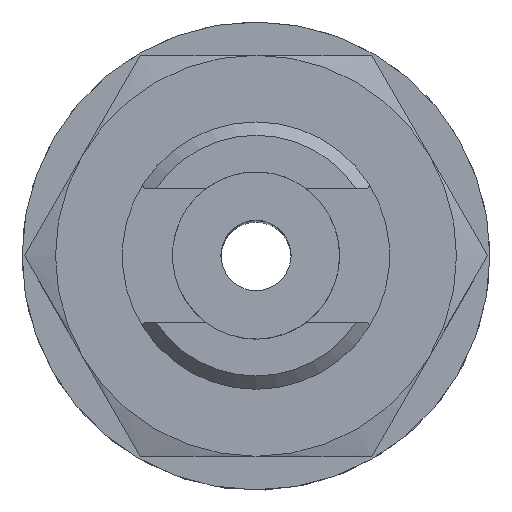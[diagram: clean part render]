
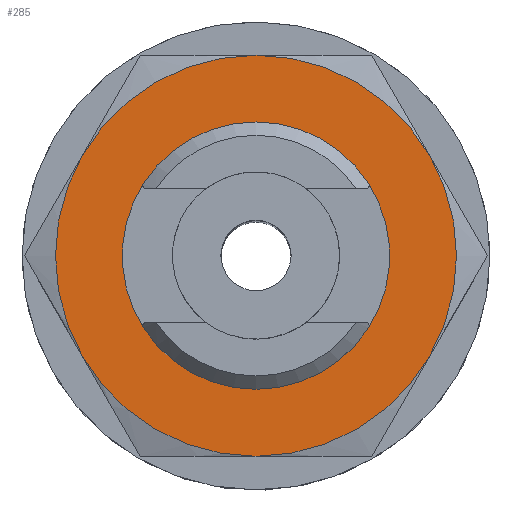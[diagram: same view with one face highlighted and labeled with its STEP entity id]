
A CAD part, top view. The second image highlights one B-rep face of the part: STEP entity #285.
In plain terms, the highlighted planar face has unit normal (0, 0, 1).
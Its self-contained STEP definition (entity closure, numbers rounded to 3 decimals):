
#285=ADVANCED_FACE('',(#538,#539),#540,.T.);
#538=FACE_BOUND('',#842,.T.);
#539=FACE_OUTER_BOUND('',#843,.T.);
#540=PLANE('',#844);
#842=EDGE_LOOP('',(#5104));
#843=EDGE_LOOP('',(#5105,#5106,#5107,#5108,#5109,#5110));
#844=AXIS2_PLACEMENT_3D('',#5111,#5112,#5113);
#5104=ORIENTED_EDGE('',*,*,#5763,.F.);
#5105=ORIENTED_EDGE('',*,*,#5764,.F.);
#5106=ORIENTED_EDGE('',*,*,#5765,.F.);
#5107=ORIENTED_EDGE('',*,*,#5766,.F.);
#5108=ORIENTED_EDGE('',*,*,#5767,.F.);
#5109=ORIENTED_EDGE('',*,*,#5768,.F.);
#5110=ORIENTED_EDGE('',*,*,#5769,.F.);
#5111=CARTESIAN_POINT('',(0.0,0.0,5.0));
#5112=DIRECTION('',(0.0,0.0,1.0));
#5113=DIRECTION('',(1.0,0.0,0.0));
#5763=EDGE_CURVE('',#6044,#6044,#6045,.T.);
#5764=EDGE_CURVE('',#6046,#6047,#6048,.T.);
#5765=EDGE_CURVE('',#6049,#6046,#6050,.T.);
#5766=EDGE_CURVE('',#6040,#6049,#6051,.T.);
#5767=EDGE_CURVE('',#6052,#6040,#6053,.T.);
#5768=EDGE_CURVE('',#6030,#6052,#6054,.T.);
#5769=EDGE_CURVE('',#6047,#6030,#6055,.T.);
#6030=VERTEX_POINT('',#6437);
#6040=VERTEX_POINT('',#6464);
#6044=VERTEX_POINT('',#6478);
#6045=CIRCLE('',#6479,7.0);
#6046=VERTEX_POINT('',#6480);
#6047=VERTEX_POINT('',#6481);
#6048=CIRCLE('',#6482,12.0);
#6049=VERTEX_POINT('',#6483);
#6050=CIRCLE('',#6484,12.0);
#6051=CIRCLE('',#6485,12.0);
#6052=VERTEX_POINT('',#6486);
#6053=CIRCLE('',#6487,12.0);
#6054=CIRCLE('',#6488,12.0);
#6055=CIRCLE('',#6489,12.0);
#6437=CARTESIAN_POINT('',(6.0,10.392,5.0));
#6464=CARTESIAN_POINT('',(6.0,-10.392,5.0));
#6478=CARTESIAN_POINT('',(7.0,0.0,5.0));
#6479=AXIS2_PLACEMENT_3D('',#8218,#8219,#8220);
#6480=CARTESIAN_POINT('',(-12.0,0.,5.0));
#6481=CARTESIAN_POINT('',(-6.0,10.392,5.0));
#6482=AXIS2_PLACEMENT_3D('',#8221,#8222,#8223);
#6483=CARTESIAN_POINT('',(-6.0,-10.392,5.0));
#6484=AXIS2_PLACEMENT_3D('',#8224,#8225,#8226);
#6485=AXIS2_PLACEMENT_3D('',#8227,#8228,#8229);
#6486=CARTESIAN_POINT('',(12.0,0.,5.0));
#6487=AXIS2_PLACEMENT_3D('',#8230,#8231,#8232);
#6488=AXIS2_PLACEMENT_3D('',#8233,#8234,#8235);
#6489=AXIS2_PLACEMENT_3D('',#8236,#8237,#8238);
#8218=CARTESIAN_POINT('',(0.0,0.0,5.0));
#8219=DIRECTION('',(0.0,0.0,1.0));
#8220=DIRECTION('',(1.0,0.0,0.0));
#8221=CARTESIAN_POINT('',(0.0,0.0,5.0));
#8222=DIRECTION('',(0.0,0.0,-1.0));
#8223=DIRECTION('',(-1.0,0.0,0.0));
#8224=CARTESIAN_POINT('',(0.0,0.0,5.0));
#8225=DIRECTION('',(0.0,0.0,-1.0));
#8226=DIRECTION('',(-1.0,0.0,0.0));
#8227=CARTESIAN_POINT('',(0.0,0.0,5.0));
#8228=DIRECTION('',(0.0,0.0,-1.0));
#8229=DIRECTION('',(-1.0,0.0,0.0));
#8230=CARTESIAN_POINT('',(0.0,0.0,5.0));
#8231=DIRECTION('',(0.0,0.0,-1.0));
#8232=DIRECTION('',(-1.0,0.0,0.0));
#8233=CARTESIAN_POINT('',(0.0,0.0,5.0));
#8234=DIRECTION('',(0.0,0.0,-1.0));
#8235=DIRECTION('',(-1.0,0.0,0.0));
#8236=CARTESIAN_POINT('',(0.0,0.0,5.0));
#8237=DIRECTION('',(0.0,0.0,-1.0));
#8238=DIRECTION('',(-1.0,0.0,0.0));
